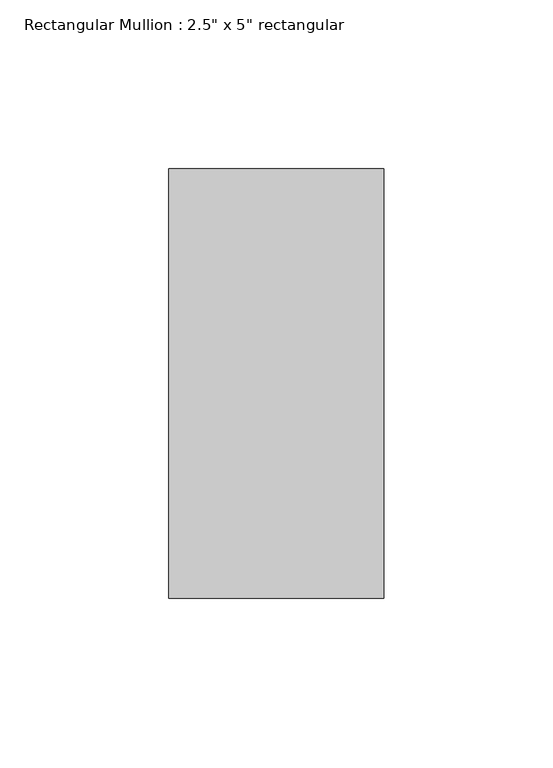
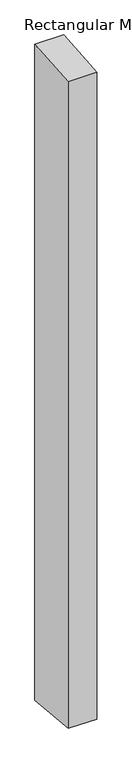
"""IFC4 building model written with IfcOpenShell, lengths in millimetres: member geometry."""

from ifc_helpers import new_model, si_unit, origin, place, context, project, spatial, faceted_brep, source, transform, mapped, element, save


def member_6411af83(model_context):
    return source(origin(), model_context, "Body", "Brep", [
        faceted_brep([(-63.5, 63.5, 5.1521518), (0.0, 63.5, 5.3078536), (0.0, 63.5, -1529.3078536), (-63.5, 63.5, -1529.1521518), (-63.5, -63.5, -5.4635553), (-63.5, -63.5, -1518.5364447), (0.0, -63.5, -5.3078536), (0.0, -63.5, -1518.6921464)], [[[0, 1, 2, 3]], [[4, 0, 3, 5]], [[6, 4, 5, 7]], [[1, 6, 7, 2]], [[1, 0, 4, 6]], [[2, 7, 5, 3]]]),
    ])


if __name__ == "__main__":
    model = new_model("IFC4")
    model_context = context("Model", 3, world=origin())
    ifc_project = project(units=[si_unit("LENGTHUNIT", "METRE", prefix="MILLI")], contexts=[model_context])
    site = spatial("IfcSite", under=ifc_project)
    building = spatial("IfcBuilding", under=site)
    placement = place(None, origin())
    member_shape = member_6411af83(model_context)
    element("IfcMember", 1, ObjectType="Rectangular Mullion : 2.5\" x 5\" rectangular", at=placement, inside=building, context=model_context, shape_type="MappedRepresentation", body=[
        mapped(member_shape, transform((0.0, 0.0, 0.0), x_axis=(1.0, 0.0, 0.0), y_axis=(0.0, 1.0, 0.0), z_axis=(0.0, 0.0, 1.0))),
    ])
    save(model, "model.ifc")
